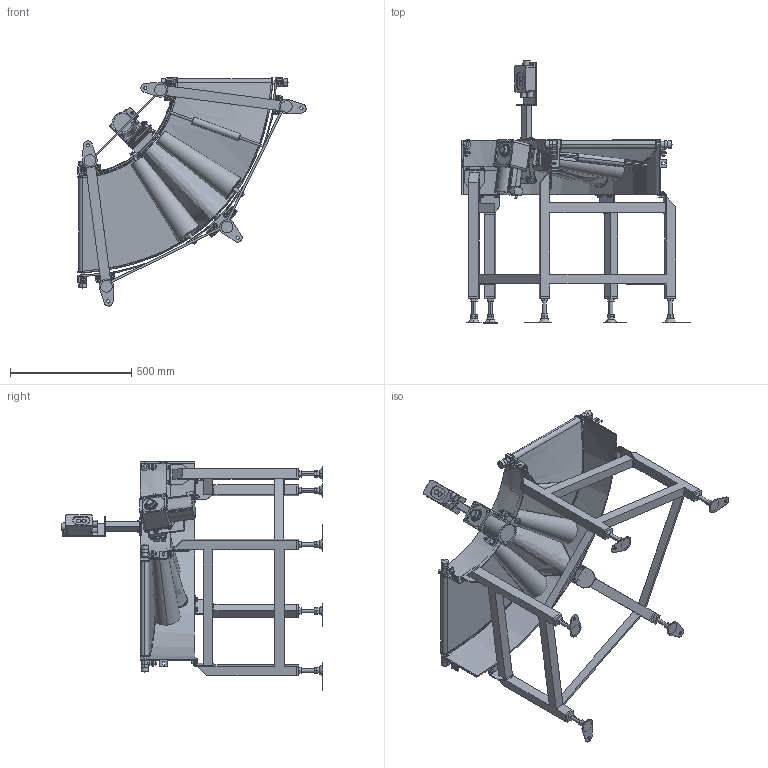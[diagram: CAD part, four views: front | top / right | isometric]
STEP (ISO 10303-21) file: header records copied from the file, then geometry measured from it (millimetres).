
FILE_DESCRIPTION( (''), '2;1');
FILE_NAME ('FNC-309-400-90°-R-K-100.stp','2025-02-17T15:38:15',(''),(''),'spGate 20.6.2 (****-****-****-****)','','');
FILE_SCHEMA (('AUTOMOTIVE_DESIGN'));
Length unit declared in the file: millimetre
Products named in the file (56): NewModel; TEMP_X_T-prt0; TEMP_X_T-prt1; TEMP_X_T-prt2; TEMP_X_T-prt3; TEMP_X_T-prt4; TEMP_X_T-prt5; TEMP_X_T-prt6; TEMP_X_T-prt7; TEMP_X_T-prt8; TEMP_X_T-prt9; TEMP_X_T-prt10; TEMP_X_T-prt11; TEMP_X_T-prt12; TEMP_X_T-prt13; TEMP_X_T-prt14; TEMP_X_T-prt15; TEMP_X_T-prt16; TEMP_X_T-prt17; TEMP_X_T-prt18; TEMP_X_T-prt19; TEMP_X_T-prt20; TEMP_X_T-prt21; TEMP_X_T-prt22; TEMP_X_T-prt23; TEMP_X_T-prt24; TEMP_X_T-prt25; TEMP_X_T-prt26; TEMP_X_T-prt27; TEMP_X_T-prt28; TEMP_X_T-prt29; TEMP_X_T-prt30; TEMP_X_T-prt31; TEMP_X_T-prt32; TEMP_X_T-prt33; TEMP_X_T-prt34; TEMP_X_T-prt35; TEMP_X_T-prt36; TEMP_X_T-prt37; TEMP_X_T-prt38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
Assembly tree (55 placements, depth 2):
  NewModel
    TEMP_X_T-prt0
    TEMP_X_T-prt1
    TEMP_X_T-prt2
    TEMP_X_T-prt3
    TEMP_X_T-prt4
    TEMP_X_T-prt5
    TEMP_X_T-prt6
    TEMP_X_T-prt7
    TEMP_X_T-prt8
    TEMP_X_T-prt9
    TEMP_X_T-prt10
    TEMP_X_T-prt11
    TEMP_X_T-prt12
    TEMP_X_T-prt13
    TEMP_X_T-prt14
    TEMP_X_T-prt15
    TEMP_X_T-prt16
    TEMP_X_T-prt17
    TEMP_X_T-prt18
    TEMP_X_T-prt19
    TEMP_X_T-prt20
    TEMP_X_T-prt21
    TEMP_X_T-prt22
    TEMP_X_T-prt23
    TEMP_X_T-prt24
    TEMP_X_T-prt25
    TEMP_X_T-prt26
    TEMP_X_T-prt27
    TEMP_X_T-prt28
    TEMP_X_T-prt29
    TEMP_X_T-prt30
    TEMP_X_T-prt31
    TEMP_X_T-prt32
    TEMP_X_T-prt33
    TEMP_X_T-prt34
    TEMP_X_T-prt35
    TEMP_X_T-prt36
    TEMP_X_T-prt37
    TEMP_X_T-prt38
    TEMP_X_T-prt39
    TEMP_X_T-prt40
    TEMP_X_T-prt41
    TEMP_X_T-prt42
    TEMP_X_T-prt43
    TEMP_X_T-prt44
    TEMP_X_T-prt45
    TEMP_X_T-prt46
    TEMP_X_T-prt47
    TEMP_X_T-prt48
    TEMP_X_T-prt49
    TEMP_X_T-prt50
    TEMP_X_T-prt51
    TEMP_X_T-prt52
    TEMP_X_T-prt53
    TEMP_X_T-prt54
Bounding box: 942.06 x 1081.5 x 942.06 mm (x, y, z)
Volume: 39742864.3 mm3; surface area: 3548134.7 mm2
Topology: 55 solids, 55 shells, 2073 faces, 4984 edges, 3251 vertices
Faces by surface type: plane 1355, cylinder 553, bspline 165
Entity records: 111546 total; most frequent: CARTESIAN_POINT 21643, ORIENTED_EDGE 9952, DIRECTION 9631, COLOUR_RGB 7104, PRESENTATION_STYLE_ASSIGNMENT 7104, STYLED_ITEM 7104, EDGE_CURVE 4976, DRAUGHTING_PRE_DEFINED_CURVE_FONT 4976
